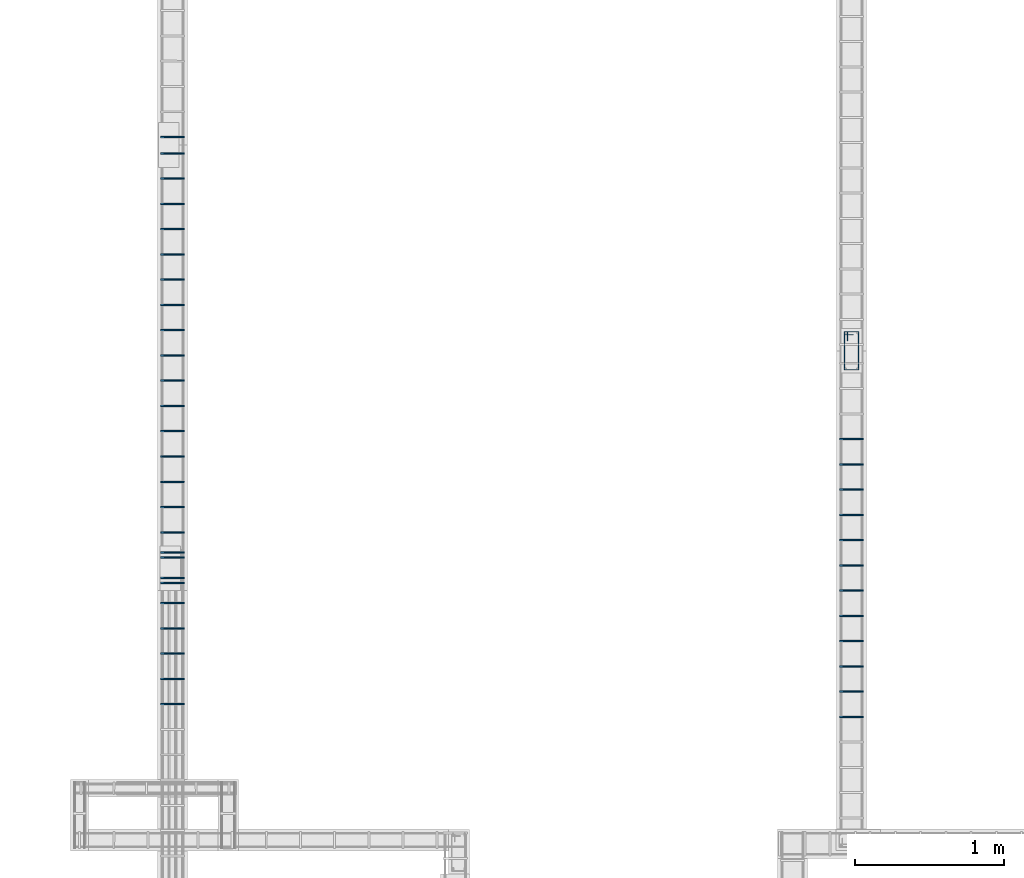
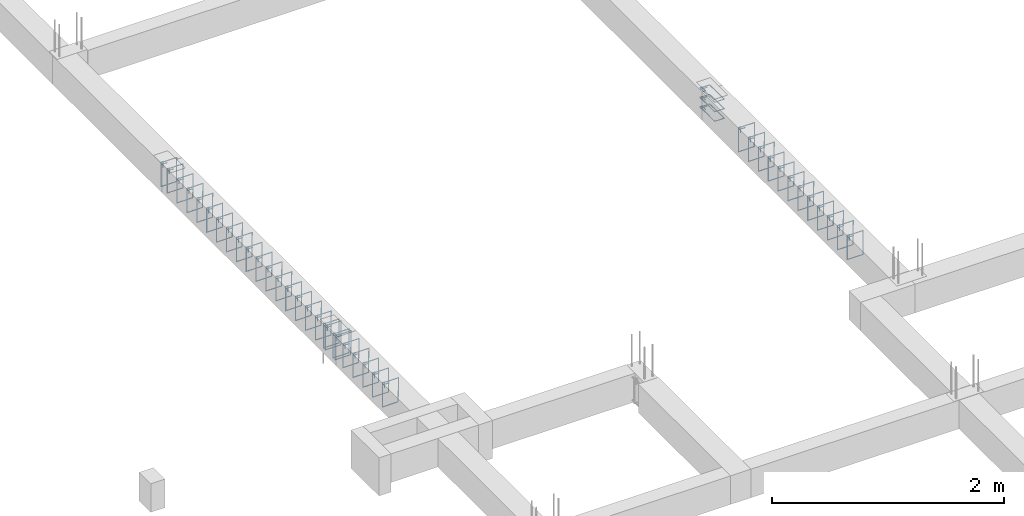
# One storey, part 79 of 150: 41 reinforcing bars.
"""IFC4 building model written with IfcOpenShell, lengths in centimetres."""

import ifcopenshell
import ifcopenshell.guid

model = None  # the IFC model being written
_history = None  # IfcOwnerHistory: only IFC2X3 demands one
_inside = {}  # id of a spatial element -> (the spatial element, [elements in it])
_under = {}  # id of a project, library or spatial element -> (it, [spatial elements below it])
_declared = {}  # id of a project -> (the project, [libraries it declares])
_typed = {}  # id of a type object -> (the type object, [elements of that type])
_made_of = {}  # id of a material, layer set ... -> (it, [elements and type objects made of it])


def new_model(schema):
    """Start an empty IFC model of exactly this schema.

    Asked for "IFC4X3", IfcOpenShell would pick the latest addendum, in which some entities
    have other attributes; the version numbers below select the first issue.
    IFC2X3 requires an IfcOwnerHistory on every rooted entity: one is made here for all.
    """
    global model, _history
    if schema == "IFC4X3":
        model = ifcopenshell.file(schema_version=(4, 3, 0, 0))
    else:
        model = ifcopenshell.file(schema=schema)
    _inside.clear()
    _under.clear()
    _declared.clear()
    _typed.clear()
    _made_of.clear()
    _history = None
    if model.schema == "IFC2X3":
        org = make("IfcOrganization", Name="unknown")
        user = make(
            "IfcPersonAndOrganization",
            ThePerson=make("IfcPerson", FamilyName="unknown"),
            TheOrganization=org,
        )
        app = make(
            "IfcApplication",
            ApplicationDeveloper=org,
            Version="unknown",
            ApplicationFullName="unknown",
            ApplicationIdentifier="unknown",
        )
        _history = make(
            "IfcOwnerHistory",
            OwningUser=user,
            OwningApplication=app,
            ChangeAction="ADDED",
            CreationDate=0,
        )
    return model


def make(cls, **values):
    """One entity of the class cls with the attributes given. An attribute that is None is left unset."""
    return model.create_entity(
        cls, **{name: value for name, value in values.items() if value is not None}
    )


def entity(cls, *values):
    """Any entity or typed value of the class cls, its attributes in the order of the schema. None: left unset."""
    e = model.create_entity(cls)
    for i, value in enumerate(values):
        if value is not None:
            e[i] = value
    return e


def rooted(cls, **values):
    """An entity with a GlobalId (a new one), such as an element, a storey or a relation."""
    return make(cls, GlobalId=ifcopenshell.guid.new(), OwnerHistory=_history, **values)


def si_unit(unit_type, name, prefix=None):
    """IfcSIUnit, for example si_unit("LENGTHUNIT", "METRE", prefix="MILLI")."""
    return make("IfcSIUnit", UnitType=unit_type, Prefix=prefix, Name=name)


def derived_unit(unit_type, elements):
    """IfcDerivedUnit: a product of units, each with its exponent."""
    return make(
        "IfcDerivedUnit",
        Elements=[
            make("IfcDerivedUnitElement", Unit=unit, Exponent=power)
            for unit, power in elements
        ],
        UnitType=unit_type,
    )


def assignment(units):
    """IfcUnitAssignment: the units of a project."""
    return None if units is None else make("IfcUnitAssignment", Units=units)


def point(xyz):
    """IfcCartesianPoint."""
    return None if xyz is None else make("IfcCartesianPoint", Coordinates=xyz)


def direction(xyz):
    """IfcDirection."""
    return None if xyz is None else make("IfcDirection", DirectionRatios=xyz)


def frame(location, z_axis=None, x_axis=None):
    """IfcAxis2Placement3D, a coordinate frame: its origin and axes. An axis left out is left unset."""
    return make(
        "IfcAxis2Placement3D",
        Location=point(location),
        Axis=direction(z_axis),
        RefDirection=direction(x_axis),
    )


def origin_with_axes():
    """The frame at (0, 0, 0) with the z axis (0, 0, 1) and the x axis (1, 0, 0) written out."""
    return frame((0.0, 0.0, 0.0), z_axis=(0.0, 0.0, 1.0), x_axis=(1.0, 0.0, 0.0))


def place(relative_to, where):
    """IfcLocalPlacement: puts the frame where relative to a parent placement (None: the world)."""
    return make(
        "IfcLocalPlacement", PlacementRelTo=relative_to, RelativePlacement=where
    )


def context(
    kind, dimensions, precision=None, world=None, true_north=None, identifier=None
):
    """IfcGeometricRepresentationContext, for example the 3D "Model" context."""
    return make(
        "IfcGeometricRepresentationContext",
        ContextIdentifier=identifier,
        ContextType=kind,
        CoordinateSpaceDimension=dimensions,
        Precision=precision,
        WorldCoordinateSystem=world,
        TrueNorth=true_north,
    )


def project(units=None, contexts=None):
    """IfcProject with its units and contexts."""
    return rooted(
        "IfcProject",
        Name="project",
        RepresentationContexts=contexts,
        UnitsInContext=assignment(units),
    )


def spatial(cls, under=None, at=None, **own):
    """A site, building, storey or space (cls), placed at a placement, below another one or the project."""
    s = rooted(cls, ObjectPlacement=at, **own)
    if under is not None:
        _under.setdefault(under.id(), (under, []))[1].append(s)
    return s


def shape(context_of_items, identifier, shape_type, items):
    """IfcShapeRepresentation: the items that make up one representation, for example the "Body"."""
    return make(
        "IfcShapeRepresentation",
        ContextOfItems=context_of_items,
        RepresentationIdentifier=identifier,
        RepresentationType=shape_type,
        Items=items,
    )


def source(mapping_origin, context_of_items, identifier, shape_type, items):
    """IfcRepresentationMap: a shape defined once, which mapped items show again and again."""
    return make(
        "IfcRepresentationMap",
        MappingOrigin=mapping_origin,
        MappedRepresentation=shape(context_of_items, identifier, shape_type, items),
    )


def transform(
    local_origin,
    x_axis=None,
    y_axis=None,
    z_axis=None,
    scale=None,
    scale2=None,
    scale3=None,
    uniform=True,
):
    """IfcCartesianTransformationOperator3D, or its non-uniform kind. x_axis, y_axis, z_axis: its Axis1, 2, 3."""
    if uniform:
        return make(
            "IfcCartesianTransformationOperator3D",
            Axis1=direction(x_axis),
            Axis2=direction(y_axis),
            LocalOrigin=point(local_origin),
            Scale=scale,
            Axis3=direction(z_axis),
        )
    return make(
        "IfcCartesianTransformationOperator3DnonUniform",
        Axis1=direction(x_axis),
        Axis2=direction(y_axis),
        LocalOrigin=point(local_origin),
        Scale=scale,
        Axis3=direction(z_axis),
        Scale2=scale2,
        Scale3=scale3,
    )


def mapped(mapping_source, mapping_target):
    """IfcMappedItem: shows the shape of a source again, moved by a transform."""
    return make(
        "IfcMappedItem", MappingSource=mapping_source, MappingTarget=mapping_target
    )


def made_of(thing, what):
    """Note that an element or type object is made of a material, layer set ...; save() writes the relation."""
    if what is not None:
        _made_of.setdefault(what.id(), (what, []))[1].append(thing)
    return thing


def element(
    cls,
    number,
    at=None,
    inside=None,
    cuts=None,
    type_object=None,
    material=None,
    context=None,
    identifier="Body",
    shape_type=None,
    held_by="IfcProductDefinitionShape",
    body=None,
    shapes=None,
    **own,
):
    """One element of the class cls, such as IfcWall. Its Tag is "e" and its number.

    at: its placement. inside: the storey or other place that contains it. cuts: it is an
    opening in that element (IfcRelVoidsElement). A single representation is given by context,
    identifier, shape_type and body (its items); several are given by shapes. held_by: the class
    of the entity that holds the representations. save() writes the other relations.
    """
    e = rooted(cls, Tag="e%d" % number, ObjectPlacement=at, **own)
    if body is not None:
        shapes = [shape(context, identifier, shape_type, body)]
    if shapes is not None:
        e.Representation = make(held_by, Representations=shapes)
    if inside is not None:
        _inside.setdefault(inside.id(), (inside, []))[1].append(e)
    if cuts is not None:
        rooted(
            "IfcRelVoidsElement", RelatingBuildingElement=cuts, RelatedOpeningElement=e
        )
    if type_object is not None:
        _typed.setdefault(type_object.id(), (type_object, []))[1].append(e)
    return made_of(e, material)


def aggregate(whole, parts):
    """IfcRelAggregates: a whole, such as a stair, and the parts it consists of."""
    return rooted("IfcRelAggregates", RelatingObject=whole, RelatedObjects=parts)


def save(model, path):
    """Write the relations noted so far, then the file.

    IfcRelAggregates (storeys below a building ...), IfcRelContainedInSpatialStructure (elements
    in a storey), IfcRelDefinesByType, IfcRelAssociatesMaterial and IfcRelDeclares: one each for
    every whole, place, type object, material and project.
    """
    for whole, parts in _under.values():
        aggregate(whole, parts)
    for where, things in _inside.values():
        rooted(
            "IfcRelContainedInSpatialStructure",
            RelatedElements=things,
            RelatingStructure=where,
        )
    for kind, things in _typed.values():
        rooted("IfcRelDefinesByType", RelatedObjects=things, RelatingType=kind)
    for what, things in _made_of.values():
        rooted("IfcRelAssociatesMaterial", RelatedObjects=things, RelatingMaterial=what)
    for by, libraries in _declared.values():
        rooted("IfcRelDeclares", RelatingContext=by, RelatedDefinitions=libraries)
    model.write(path)


model = new_model("IFC4")

# Units and contexts
model_context = context("Model", 3, precision=1e-05, world=origin_with_axes(), identifier="Body")
ifc_project = project(units=[si_unit("LENGTHUNIT", "METRE", prefix="CENTI"), si_unit("VOLUMEUNIT", "CUBIC_METRE"), si_unit("AREAUNIT", "SQUARE_METRE"), si_unit("POWERUNIT", "WATT"), si_unit("LUMINOUSFLUXUNIT", "LUMEN"), si_unit("ELECTRICCURRENTUNIT", "AMPERE"), si_unit("PRESSUREUNIT", "PASCAL", prefix="KILO"), si_unit("MASSUNIT", "GRAM", prefix="KILO"), si_unit("PLANEANGLEUNIT", "RADIAN"), derived_unit("VOLUMETRICFLOWRATEUNIT", [(si_unit("LENGTHUNIT", "METRE"), 3), (si_unit("TIMEUNIT", "SECOND"), -1)])], contexts=[model_context])

# Site, building, storey
site_placement = place(None, frame((-4000.0, 0.0, 0.0), z_axis=(0.0, 0.0, 1.0), x_axis=(1.0, 0.0, 0.0)))
site = spatial("IfcSite", under=ifc_project, at=site_placement, Name="PADRÃO")
building_placement = place(site_placement, frame((0.0, 0.0, -14.0)))
building = spatial("IfcBuilding", under=site, at=building_placement, Name="CRECHE PRÉ-ESCOLA TIPO 2")
placement = place(building_placement, origin_with_axes())
storey_placement = place(placement, frame((0.0, 0.0, 30.0), z_axis=(0.0, 0.0, 1.0), x_axis=(1.0, 0.0, 0.0)))
storey = spatial("IfcBuildingStorey", under=building, at=storey_placement, Name="VIGA BALDRAME", CompositionType="ELEMENT", Elevation=16.0)

# Reinforcing bars
shared_shape_1 = source(origin_with_axes(), model_context, "Body", "AdvancedSweptSolid", [
    entity("IfcSweptDiskSolid", entity("IfcCompositeCurve", [entity("IfcCompositeCurveSegment", "CONTINUOUS", True, entity("IfcPolyline", [entity("IfcCartesianPoint", [4.25, 21.75, 0.0]), entity("IfcCartesianPoint", [4.25, 27.75, 0.0])])), entity("IfcCompositeCurveSegment", "CONTINUOUS", True, entity("IfcPolyline", [entity("IfcCartesianPoint", [4.25, 27.75, 0.0]), entity("IfcCartesianPoint", [2.25, 27.75, 0.0])])), entity("IfcCompositeCurveSegment", "CONTINUOUS", True, entity("IfcPolyline", [entity("IfcCartesianPoint", [2.25, 27.75, 0.0]), entity("IfcCartesianPoint", [2.25, 2.25, 0.0])])), entity("IfcCompositeCurveSegment", "CONTINUOUS", True, entity("IfcPolyline", [entity("IfcCartesianPoint", [2.25, 2.25, 0.0]), entity("IfcCartesianPoint", [11.75, 2.25, 0.0])])), entity("IfcCompositeCurveSegment", "CONTINUOUS", True, entity("IfcPolyline", [entity("IfcCartesianPoint", [11.75, 2.25, 0.0]), entity("IfcCartesianPoint", [11.75, 27.75, -0.5])])), entity("IfcCompositeCurveSegment", "CONTINUOUS", True, entity("IfcPolyline", [entity("IfcCartesianPoint", [11.75, 27.75, -0.5]), entity("IfcCartesianPoint", [2.25, 27.75, -0.5])])), entity("IfcCompositeCurveSegment", "CONTINUOUS", True, entity("IfcPolyline", [entity("IfcCartesianPoint", [2.25, 27.75, -0.5]), entity("IfcCartesianPoint", [2.25, 25.75, -0.5])])), entity("IfcCompositeCurveSegment", "CONTINUOUS", True, entity("IfcPolyline", [entity("IfcCartesianPoint", [2.25, 25.75, -0.5]), entity("IfcCartesianPoint", [8.25, 25.75, -0.5])]))], False), 0.25),
])
for number, where, z_axis, x_axis, name in (
    (1, (2976.0, 2236.77, -15.0), (0.0, 0.0, 1.0), (1.0, 0.0, 0.0), "P80 - Estribo"),
    (2, (2976.0, 2236.77, -5.0), (0.0, 0.0, 1.0), (1.0, 0.0, 0.0), "P80 - Estribo"),
    (3, (2976.0, 2236.77, -25.0), (0.0, 0.0, 1.0), (1.0, 0.0, 0.0), "P80 - Estribo"),
):
    element("IfcReinforcingBar", number, at=place(storey_placement, frame(where, z_axis=z_axis, x_axis=x_axis)), inside=storey, Name=name, BarLength=0.0, CrossSectionArea=1.9634954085e-05, NominalDiameter=0.5, PredefinedType="MAIN", context=model_context, shape_type="MappedRepresentation", body=[
        mapped(shared_shape_1, transform((0.0, 0.0, 0.0), scale=1.0)),
    ])
shared_shape_2 = source(origin_with_axes(), model_context, "Body", "AdvancedSweptSolid", [
    entity("IfcSweptDiskSolid", entity("IfcCompositeCurve", [entity("IfcCompositeCurveSegment", "CONTINUOUS", True, entity("IfcPolyline", [entity("IfcCartesianPoint", [2.0, -6.0, 0.0]), entity("IfcCartesianPoint", [2.0, 0.0, 0.0])])), entity("IfcCompositeCurveSegment", "CONTINUOUS", True, entity("IfcPolyline", [entity("IfcCartesianPoint", [2.0, 0.0, 0.0]), entity("IfcCartesianPoint", [0.0, 0.0, 0.0])])), entity("IfcCompositeCurveSegment", "CONTINUOUS", True, entity("IfcPolyline", [entity("IfcCartesianPoint", [0.0, 0.0, 0.0]), entity("IfcCartesianPoint", [0.0, -25.5, 0.0])])), entity("IfcCompositeCurveSegment", "CONTINUOUS", True, entity("IfcPolyline", [entity("IfcCartesianPoint", [0.0, -25.5, 0.0]), entity("IfcCartesianPoint", [15.5, -25.5, 0.0])])), entity("IfcCompositeCurveSegment", "CONTINUOUS", True, entity("IfcPolyline", [entity("IfcCartesianPoint", [15.5, -25.5, 0.0]), entity("IfcCartesianPoint", [15.5, 0.0, 0.5])])), entity("IfcCompositeCurveSegment", "CONTINUOUS", True, entity("IfcPolyline", [entity("IfcCartesianPoint", [15.5, 0.0, 0.5]), entity("IfcCartesianPoint", [0.0, 0.0, 0.5])])), entity("IfcCompositeCurveSegment", "CONTINUOUS", True, entity("IfcPolyline", [entity("IfcCartesianPoint", [0.0, 0.0, 0.5]), entity("IfcCartesianPoint", [0.0, -2.0, 0.5])])), entity("IfcCompositeCurveSegment", "CONTINUOUS", True, entity("IfcPolyline", [entity("IfcCartesianPoint", [0.0, -2.0, 0.5]), entity("IfcCartesianPoint", [6.0, -2.0, 0.5])]))], False), 0.25),
])
for number, where, z_axis, x_axis, name in (
    (4, (2975.25, 2158.645, -2.25), (0.0, -1.0, 0.0), (1.0, 0.0, 0.0), "V212 - Estribo"),
    (5, (2975.25, 2141.645, -2.25), (0.0, -1.0, 0.0), (1.0, 0.0, 0.0), "V212 - Estribo"),
    (6, (2975.25, 2124.645, -2.25), (0.0, -1.0, 0.0), (1.0, 0.0, 0.0), "V212 - Estribo"),
    (7, (2975.25, 2107.645, -2.25), (0.0, -1.0, 0.0), (1.0, 0.0, 0.0), "V212 - Estribo"),
    (8, (2975.25, 2090.645, -2.25), (0.0, -1.0, 0.0), (1.0, 0.0, 0.0), "V212 - Estribo"),
    (9, (2975.25, 2073.645, -2.25), (0.0, -1.0, 0.0), (1.0, 0.0, 0.0), "V212 - Estribo"),
    (10, (2975.25, 2056.645, -2.25), (0.0, -1.0, 0.0), (1.0, 0.0, 0.0), "V212 - Estribo"),
    (11, (2975.25, 2022.645, -2.25), (0.0, -1.0, 0.0), (1.0, 0.0, 0.0), "V212 - Estribo"),
    (12, (2975.25, 2005.645, -2.25), (0.0, -1.0, 0.0), (1.0, 0.0, 0.0), "V212 - Estribo"),
    (13, (2975.25, 2039.645, -2.25), (0.0, -1.0, 0.0), (1.0, 0.0, 0.0), "V212 - Estribo"),
    (14, (2975.25, 2192.645, -2.25), (0.0, -1.0, 0.0), (1.0, 0.0, 0.0), "V212 - Estribo"),
    (15, (2975.25, 2175.645, -2.25), (0.0, -1.0, 0.0), (1.0, 0.0, 0.0), "V212 - Estribo"),
):
    element("IfcReinforcingBar", number, at=place(storey_placement, frame(where, z_axis=z_axis, x_axis=x_axis)), inside=storey, Name=name, BarLength=0.0, CrossSectionArea=1.9634954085e-05, NominalDiameter=0.5, PredefinedType="MAIN", context=model_context, shape_type="MappedRepresentation", body=[
        mapped(shared_shape_2, transform((0.0, 0.0, 0.0), scale=1.0)),
    ])
shared_shape_3 = source(origin_with_axes(), model_context, "Body", "AdvancedSweptSolid", [
    entity("IfcSweptDiskSolid", entity("IfcCompositeCurve", [entity("IfcCompositeCurveSegment", "CONTINUOUS", True, entity("IfcPolyline", [entity("IfcCartesianPoint", [2.0, -6.0, 0.0]), entity("IfcCartesianPoint", [2.0, 0.0, 0.0])])), entity("IfcCompositeCurveSegment", "CONTINUOUS", True, entity("IfcPolyline", [entity("IfcCartesianPoint", [2.0, 0.0, 0.0]), entity("IfcCartesianPoint", [0.0, 0.0, 0.0])])), entity("IfcCompositeCurveSegment", "CONTINUOUS", True, entity("IfcPolyline", [entity("IfcCartesianPoint", [0.0, 0.0, 0.0]), entity("IfcCartesianPoint", [0.0, -25.5, 0.0])])), entity("IfcCompositeCurveSegment", "CONTINUOUS", True, entity("IfcPolyline", [entity("IfcCartesianPoint", [0.0, -25.5, 0.0]), entity("IfcCartesianPoint", [15.5, -25.5, 0.0])])), entity("IfcCompositeCurveSegment", "CONTINUOUS", True, entity("IfcPolyline", [entity("IfcCartesianPoint", [15.5, -25.5, 0.0]), entity("IfcCartesianPoint", [15.5, 0.0, 0.5])])), entity("IfcCompositeCurveSegment", "CONTINUOUS", True, entity("IfcPolyline", [entity("IfcCartesianPoint", [15.5, 0.0, 0.5]), entity("IfcCartesianPoint", [0.0, 0.0, 0.5])])), entity("IfcCompositeCurveSegment", "CONTINUOUS", True, entity("IfcPolyline", [entity("IfcCartesianPoint", [0.0, 0.0, 0.5]), entity("IfcCartesianPoint", [0.0, -2.0, 0.5])])), entity("IfcCompositeCurveSegment", "CONTINUOUS", True, entity("IfcPolyline", [entity("IfcCartesianPoint", [0.0, -2.0, 0.5]), entity("IfcCartesianPoint", [6.0, -2.0, 0.5])]))], False), 0.25),
])
for number, where, z_axis, x_axis, name in (
    (16, (2518.25, 2116.18, -2.25), (0.0, -1.0, 0.0), (1.0, 0.0, 0.0), "V196 - Estribo"),
    (17, (2518.25, 2099.18, -2.25), (0.0, -1.0, 0.0), (1.0, 0.0, 0.0), "V196 - Estribo"),
    (18, (2518.25, 2082.18, -2.25), (0.0, -1.0, 0.0), (1.0, 0.0, 0.0), "V196 - Estribo"),
    (19, (2518.25, 2065.18, -2.25), (0.0, -1.0, 0.0), (1.0, 0.0, 0.0), "V196 - Estribo"),
    (20, (2518.25, 2048.18, -2.25), (0.0, -1.0, 0.0), (1.0, 0.0, 0.0), "V196 - Estribo"),
    (21, (2518.25, 2031.18, -2.25), (0.0, -1.0, 0.0), (1.0, 0.0, 0.0), "V196 - Estribo"),
    (22, (2518.25, 2014.18, -2.25), (0.0, -1.0, 0.0), (1.0, 0.0, 0.0), "V196 - Estribo"),
):
    element("IfcReinforcingBar", number, at=place(storey_placement, frame(where, z_axis=z_axis, x_axis=x_axis)), inside=storey, Name=name, BarLength=0.0, CrossSectionArea=1.9634954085e-05, NominalDiameter=0.5, PredefinedType="MAIN", context=model_context, shape_type="MappedRepresentation", body=[
        mapped(shared_shape_3, transform((0.0, 0.0, 0.0), scale=1.0)),
    ])
shared_shape_4 = source(origin_with_axes(), model_context, "Body", "AdvancedSweptSolid", [
    entity("IfcSweptDiskSolid", entity("IfcCompositeCurve", [entity("IfcCompositeCurveSegment", "CONTINUOUS", True, entity("IfcPolyline", [entity("IfcCartesianPoint", [2.0, -6.0, 0.0]), entity("IfcCartesianPoint", [2.0, 0.0, 0.0])])), entity("IfcCompositeCurveSegment", "CONTINUOUS", True, entity("IfcPolyline", [entity("IfcCartesianPoint", [2.0, 0.0, 0.0]), entity("IfcCartesianPoint", [0.0, 0.0, 0.0])])), entity("IfcCompositeCurveSegment", "CONTINUOUS", True, entity("IfcPolyline", [entity("IfcCartesianPoint", [0.0, 0.0, 0.0]), entity("IfcCartesianPoint", [0.0, -25.5, 0.0])])), entity("IfcCompositeCurveSegment", "CONTINUOUS", True, entity("IfcPolyline", [entity("IfcCartesianPoint", [0.0, -25.5, 0.0]), entity("IfcCartesianPoint", [15.5, -25.5, 0.0])])), entity("IfcCompositeCurveSegment", "CONTINUOUS", True, entity("IfcPolyline", [entity("IfcCartesianPoint", [15.5, -25.5, 0.0]), entity("IfcCartesianPoint", [15.5, 0.0, 0.5])])), entity("IfcCompositeCurveSegment", "CONTINUOUS", True, entity("IfcPolyline", [entity("IfcCartesianPoint", [15.5, 0.0, 0.5]), entity("IfcCartesianPoint", [0.0, 0.0, 0.5])])), entity("IfcCompositeCurveSegment", "CONTINUOUS", True, entity("IfcPolyline", [entity("IfcCartesianPoint", [0.0, 0.0, 0.5]), entity("IfcCartesianPoint", [0.0, -2.0, 0.5])])), entity("IfcCompositeCurveSegment", "CONTINUOUS", True, entity("IfcPolyline", [entity("IfcCartesianPoint", [0.0, -2.0, 0.5]), entity("IfcCartesianPoint", [6.0, -2.0, 0.5])]))], False), 0.25),
])
for number, where, z_axis, x_axis, name in (
    (23, (2518.25, 2231.895, -2.25), (0.0, -1.0, 0.0), (1.0, 0.0, 0.0), "V198 - Estribo"),
    (24, (2518.25, 2197.895, -2.25), (0.0, -1.0, 0.0), (1.0, 0.0, 0.0), "V198 - Estribo"),
    (25, (2518.25, 2112.895, -2.25), (0.0, -1.0, 0.0), (1.0, 0.0, 0.0), "V198 - Estribo"),
    (26, (2518.25, 2095.895, -2.25), (0.0, -1.0, 0.0), (1.0, 0.0, 0.0), "V198 - Estribo"),
    (27, (2518.25, 2129.895, -2.25), (0.0, -1.0, 0.0), (1.0, 0.0, 0.0), "V198 - Estribo"),
    (28, (2518.25, 2146.895, -2.25), (0.0, -1.0, 0.0), (1.0, 0.0, 0.0), "V198 - Estribo"),
    (29, (2518.25, 2163.895, -2.25), (0.0, -1.0, 0.0), (1.0, 0.0, 0.0), "V198 - Estribo"),
    (30, (2518.25, 2180.895, -2.25), (0.0, -1.0, 0.0), (1.0, 0.0, 0.0), "V198 - Estribo"),
    (31, (2518.25, 2350.895, -2.25), (0.0, -1.0, 0.0), (1.0, 0.0, 0.0), "V198 - Estribo"),
    (32, (2518.25, 2214.895, -2.25), (0.0, -1.0, 0.0), (1.0, 0.0, 0.0), "V198 - Estribo"),
    (33, (2518.25, 2248.895, -2.25), (0.0, -1.0, 0.0), (1.0, 0.0, 0.0), "V198 - Estribo"),
    (34, (2518.25, 2265.895, -2.25), (0.0, -1.0, 0.0), (1.0, 0.0, 0.0), "V198 - Estribo"),
    (35, (2518.25, 2282.895, -2.25), (0.0, -1.0, 0.0), (1.0, 0.0, 0.0), "V198 - Estribo"),
    (36, (2518.25, 2299.895, -2.25), (0.0, -1.0, 0.0), (1.0, 0.0, 0.0), "V198 - Estribo"),
    (37, (2518.25, 2316.895, -2.25), (0.0, -1.0, 0.0), (1.0, 0.0, 0.0), "V198 - Estribo"),
    (38, (2518.25, 2333.895, -2.25), (0.0, -1.0, 0.0), (1.0, 0.0, 0.0), "V198 - Estribo"),
    (39, (2518.25, 2367.895, -2.25), (0.0, -1.0, 0.0), (1.0, 0.0, 0.0), "V198 - Estribo"),
    (40, (2518.25, 2384.895, -2.25), (0.0, -1.0, 0.0), (1.0, 0.0, 0.0), "V198 - Estribo"),
):
    element("IfcReinforcingBar", number, at=place(storey_placement, frame(where, z_axis=z_axis, x_axis=x_axis)), inside=storey, Name=name, BarLength=0.0, CrossSectionArea=1.9634954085e-05, NominalDiameter=0.5, PredefinedType="MAIN", context=model_context, shape_type="MappedRepresentation", body=[
        mapped(shared_shape_4, transform((0.0, 0.0, 0.0), scale=1.0)),
    ])
shared_shape_5 = source(origin_with_axes(), model_context, "Body", "AdvancedSweptSolid", [
    entity("IfcSweptDiskSolid", entity("IfcCompositeCurve", [entity("IfcCompositeCurveSegment", "CONTINUOUS", True, entity("IfcPolyline", [entity("IfcCartesianPoint", [2.0, -6.0, 0.0]), entity("IfcCartesianPoint", [2.0, 0.0, 0.0])])), entity("IfcCompositeCurveSegment", "CONTINUOUS", True, entity("IfcPolyline", [entity("IfcCartesianPoint", [2.0, 0.0, 0.0]), entity("IfcCartesianPoint", [0.0, 0.0, 0.0])])), entity("IfcCompositeCurveSegment", "CONTINUOUS", True, entity("IfcPolyline", [entity("IfcCartesianPoint", [0.0, 0.0, 0.0]), entity("IfcCartesianPoint", [0.0, -25.5, 0.0])])), entity("IfcCompositeCurveSegment", "CONTINUOUS", True, entity("IfcPolyline", [entity("IfcCartesianPoint", [0.0, -25.5, 0.0]), entity("IfcCartesianPoint", [15.5, -25.5, 0.0])])), entity("IfcCompositeCurveSegment", "CONTINUOUS", True, entity("IfcPolyline", [entity("IfcCartesianPoint", [15.5, -25.5, 0.0]), entity("IfcCartesianPoint", [15.5, 0.0, 0.5])])), entity("IfcCompositeCurveSegment", "CONTINUOUS", True, entity("IfcPolyline", [entity("IfcCartesianPoint", [15.5, 0.0, 0.5]), entity("IfcCartesianPoint", [0.0, 0.0, 0.5])])), entity("IfcCompositeCurveSegment", "CONTINUOUS", True, entity("IfcPolyline", [entity("IfcCartesianPoint", [0.0, 0.0, 0.5]), entity("IfcCartesianPoint", [0.0, -2.0, 0.5])])), entity("IfcCompositeCurveSegment", "CONTINUOUS", True, entity("IfcPolyline", [entity("IfcCartesianPoint", [0.0, -2.0, 0.5]), entity("IfcCartesianPoint", [6.0, -2.0, 0.5])]))], False), 0.25),
])
reinforcing_bar_placement = place(storey_placement, frame((2518.25, 2395.895, -2.25), z_axis=(0.0, -1.0, 0.0), x_axis=(1.0, 0.0, 0.0)))
element("IfcReinforcingBar", 41, at=reinforcing_bar_placement, inside=storey, Name="V198 - Estribo", BarLength=0.0, CrossSectionArea=1.9634954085e-05, NominalDiameter=0.5, PredefinedType="MAIN", context=model_context, shape_type="MappedRepresentation", body=[
    mapped(shared_shape_5, transform((0.0, 0.0, 0.0), scale=1.0)),
])

save(model, "model.ifc")
